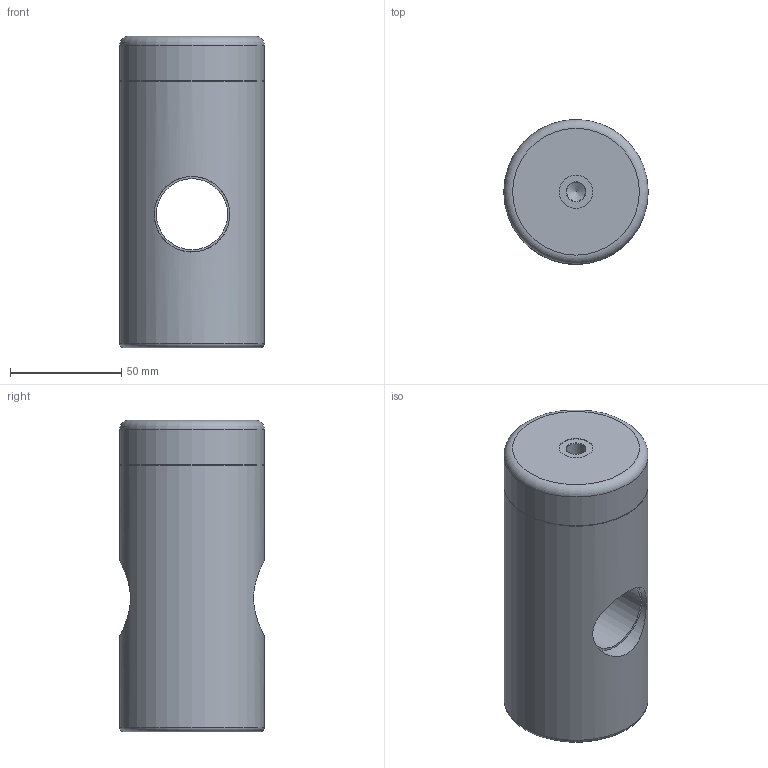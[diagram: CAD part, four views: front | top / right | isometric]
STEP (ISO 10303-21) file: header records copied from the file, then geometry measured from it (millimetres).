
FILE_DESCRIPTION(('STEP AP242'),'1');
FILE_NAME('V.5032 Feststellpatrone.stp','2026-04-23T09:33:32',(' '),(' '),'Spatial InterOp 3D',' ',' ');
FILE_SCHEMA(('AP242_MANAGED_MODEL_BASED_3D_ENGINEERING_MIM_LF {1 0 10303 442 1 1 4}'));
Length unit declared in the file: millimetre
Products named in the file (1): V.5032 Feststellpatrone
Bounding box: 65 x 65 x 140 mm (x, y, z)
Volume: 411246.4 mm3; surface area: 39480.9 mm2
Topology: 1 solids, 1 shells, 19 faces, 36 edges, 22 vertices
Faces by surface type: cylinder 8, plane 5, cone 4, torus 2
Full cylindrical faces by diameter (mm): 8.566 x2, 15 x1, 32 x1, 34 x2, 65 x2
Entity records: 839 total; most frequent: CARTESIAN_POINT 269, DIRECTION 74, EDGE_LOOP 38, ORIENTED_EDGE 38, AXIS2_PLACEMENT_3D 37, FACE_OUTER_BOUND 29, STYLED_ITEM 20, PRESENTATION_STYLE_ASSIGNMENT 20
